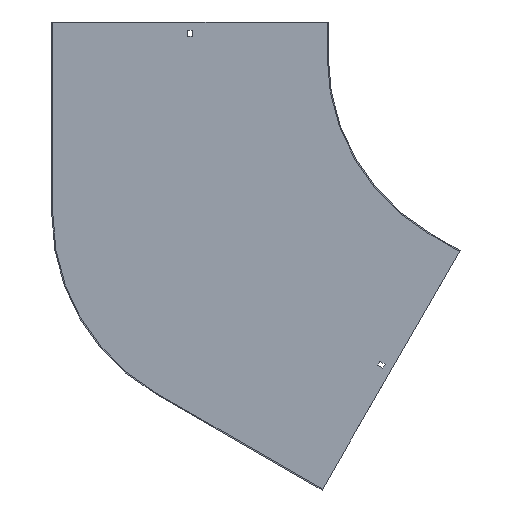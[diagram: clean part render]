
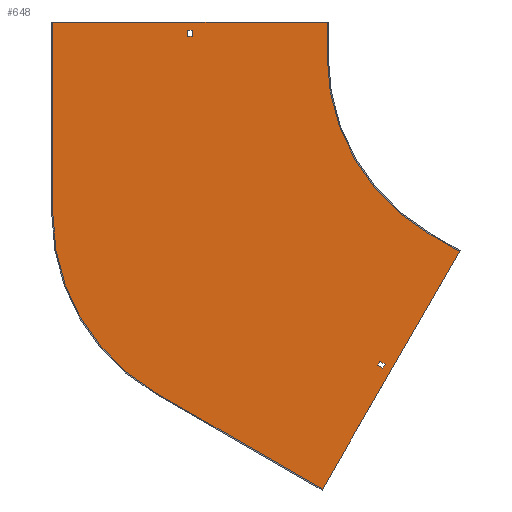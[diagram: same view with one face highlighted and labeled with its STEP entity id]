
A CAD part, front view. The second image highlights one B-rep face of the part: STEP entity #648.
In plain terms, the highlighted planar face has unit normal (0, -1, 0).
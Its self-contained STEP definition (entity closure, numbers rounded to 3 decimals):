
#7 = EDGE_CURVE ( 'NONE', #400, #80, #163, .T. ) ;
#12 = DIRECTION ( 'NONE',  ( 0., 0., 1. ) ) ;
#16 = CARTESIAN_POINT ( 'NONE',  ( -503.25, -1.5, 0. ) ) ;
#19 = CARTESIAN_POINT ( 'NONE',  ( -701.5, -1.5, 50. ) ) ;
#24 = ORIENTED_EDGE ( 'NONE', *, *, #45, .F. ) ;
#25 = DIRECTION ( 'NONE',  ( 0., 0., -1. ) ) ;
#26 = CARTESIAN_POINT ( 'NONE',  ( -550., -1.5, -490.748 ) ) ;
#29 = DIRECTION ( 'NONE',  ( -0.866, 0., 0.5 ) ) ;
#39 = CARTESIAN_POINT ( 'NONE',  ( -503.25, -1.5, 29. ) ) ;
#40 = VECTOR ( 'NONE', #103, 1000. ) ;
#42 = LINE ( 'NONE', #510, #478 ) ;
#45 = EDGE_CURVE ( 'NONE', #202, #557, #495, .T. ) ;
#51 = LINE ( 'NONE', #844, #523 ) ;
#56 = EDGE_CURVE ( 'NONE', #482, #227, #51, .T. ) ;
#58 = VECTOR ( 'NONE', #375, 1000. ) ;
#65 = CARTESIAN_POINT ( 'NONE',  ( 32.909, -1.5, -19. ) ) ;
#80 = VERTEX_POINT ( 'NONE', #39 ) ;
#82 = DIRECTION ( 'NONE',  ( 0.866, 0., -0.5 ) ) ;
#84 = AXIS2_PLACEMENT_3D ( 'NONE', #192, #768, #451 ) ;
#97 = ORIENTED_EDGE ( 'NONE', *, *, #795, .F. ) ;
#100 = DIRECTION ( 'NONE',  ( 0.866, 0., -0.5 ) ) ;
#102 = FACE_BOUND ( 'NONE', #502, .T. ) ;
#103 = DIRECTION ( 'NONE',  ( 0., 0., 1. ) ) ;
#104 = VECTOR ( 'NONE', #25, 1000. ) ;
#106 = DIRECTION ( 'NONE',  ( 0., -1., 0. ) ) ;
#126 = CARTESIAN_POINT ( 'NONE',  ( -300., -1.5, 50. ) ) ;
#128 = ORIENTED_EDGE ( 'NONE', *, *, #720, .T. ) ;
#146 = LINE ( 'NONE', #16, #716 ) ;
#152 = CARTESIAN_POINT ( 'NONE',  ( 0., -1.5, 0. ) ) ;
#162 = EDGE_CURVE ( 'NONE', #629, #520, #398, .T. ) ;
#163 = LINE ( 'NONE', #612, #285 ) ;
#171 = EDGE_CURVE ( 'NONE', #80, #443, #146, .T. ) ;
#179 = LINE ( 'NONE', #696, #104 ) ;
#180 = CARTESIAN_POINT ( 'NONE',  ( -306.699, -1.5, -631.218 ) ) ;
#192 = CARTESIAN_POINT ( 'NONE',  ( -400., -1.5, -230.94 ) ) ;
#202 = VERTEX_POINT ( 'NONE', #223 ) ;
#222 = ORIENTED_EDGE ( 'NONE', *, *, #171, .T. ) ;
#223 = CARTESIAN_POINT ( 'NONE',  ( -700., -1.5, -230.94 ) ) ;
#224 = DIRECTION ( 'NONE',  ( 0., 0., -1. ) ) ;
#227 = VERTEX_POINT ( 'NONE', #26 ) ;
#231 = ORIENTED_EDGE ( 'NONE', *, *, #7, .T. ) ;
#245 = DIRECTION ( 'NONE',  ( 0., 0., -1. ) ) ;
#246 = CARTESIAN_POINT ( 'NONE',  ( -503.25, -1.5, 38. ) ) ;
#255 = EDGE_CURVE ( 'NONE', #681, #629, #624, .T. ) ;
#256 = CARTESIAN_POINT ( 'NONE',  ( -226.51, -1.5, -450.327 ) ) ;
#261 = EDGE_LOOP ( 'NONE', ( #128, #296, #231, #222 ) ) ;
#283 = CARTESIAN_POINT ( 'NONE',  ( -251.625, -1.5, -435.827 ) ) ;
#285 = VECTOR ( 'NONE', #287, 1000. ) ;
#287 = DIRECTION ( 'NONE',  ( -1., 0., 0. ) ) ;
#295 = CARTESIAN_POINT ( 'NONE',  ( -215.466, -1.5, -449.198 ) ) ;
#296 = ORIENTED_EDGE ( 'NONE', *, *, #855, .T. ) ;
#314 = VERTEX_POINT ( 'NONE', #256 ) ;
#315 = CIRCLE ( 'NONE', #717, 300. ) ;
#328 = CARTESIAN_POINT ( 'NONE',  ( -248.375, -1.5, -430.198 ) ) ;
#338 = LINE ( 'NONE', #283, #421 ) ;
#340 = VERTEX_POINT ( 'NONE', #126 ) ;
#345 = ORIENTED_EDGE ( 'NONE', *, *, #255, .F. ) ;
#356 = CARTESIAN_POINT ( 'NONE',  ( 0., -1.5, 0. ) ) ;
#375 = DIRECTION ( 'NONE',  ( -0.5, 0., -0.866 ) ) ;
#380 = LINE ( 'NONE', #849, #58 ) ;
#389 = CARTESIAN_POINT ( 'NONE',  ( -496.75, -1.5, 29. ) ) ;
#398 = LINE ( 'NONE', #328, #491 ) ;
#400 = VERTEX_POINT ( 'NONE', #389 ) ;
#405 = LINE ( 'NONE', #19, #811 ) ;
#420 = AXIS2_PLACEMENT_3D ( 'NONE', #356, #106, #224 ) ;
#421 = VECTOR ( 'NONE', #82, 1000. ) ;
#442 = CARTESIAN_POINT ( 'NONE',  ( -300., -1.5, 0. ) ) ;
#443 = VERTEX_POINT ( 'NONE', #246 ) ;
#451 = DIRECTION ( 'NONE',  ( 0., 0., -1. ) ) ;
#473 = ORIENTED_EDGE ( 'NONE', *, *, #56, .F. ) ;
#477 = VECTOR ( 'NONE', #848, 1000. ) ;
#478 = VECTOR ( 'NONE', #245, 1000. ) ;
#480 = FACE_OUTER_BOUND ( 'NONE', #714, .T. ) ;
#481 = ORIENTED_EDGE ( 'NONE', *, *, #828, .F. ) ;
#482 = VERTEX_POINT ( 'NONE', #180 ) ;
#483 = DIRECTION ( 'NONE',  ( 1., 0., 0. ) ) ;
#490 = VERTEX_POINT ( 'NONE', #516 ) ;
#491 = VECTOR ( 'NONE', #667, 1000. ) ;
#495 = LINE ( 'NONE', #637, #40 ) ;
#499 = EDGE_CURVE ( 'NONE', #817, #482, #641, .T. ) ;
#502 = EDGE_LOOP ( 'NONE', ( #596, #345, #663, #721 ) ) ;
#510 = CARTESIAN_POINT ( 'NONE',  ( -300., -1.5, 50. ) ) ;
#516 = CARTESIAN_POINT ( 'NONE',  ( -496.75, -1.5, 38. ) ) ;
#517 = DIRECTION ( 'NONE',  ( 1., 0., 0. ) ) ;
#520 = VERTEX_POINT ( 'NONE', #839 ) ;
#523 = VECTOR ( 'NONE', #29, 1000. ) ;
#532 = EDGE_CURVE ( 'NONE', #766, #621, #315, .T. ) ;
#541 = CIRCLE ( 'NONE', #84, 300. ) ;
#551 = CARTESIAN_POINT ( 'NONE',  ( -106.699, -1.5, -284.808 ) ) ;
#557 = VERTEX_POINT ( 'NONE', #801 ) ;
#559 = ORIENTED_EDGE ( 'NONE', *, *, #809, .F. ) ;
#561 = ORIENTED_EDGE ( 'NONE', *, *, #499, .F. ) ;
#596 = ORIENTED_EDGE ( 'NONE', *, *, #162, .F. ) ;
#612 = CARTESIAN_POINT ( 'NONE',  ( 0., -1.5, 29. ) ) ;
#614 = VECTOR ( 'NONE', #665, 1000. ) ;
#621 = VERTEX_POINT ( 'NONE', #689 ) ;
#623 = PLANE ( 'NONE',  #420 ) ;
#624 = LINE ( 'NONE', #65, #614 ) ;
#629 = VERTEX_POINT ( 'NONE', #295 ) ;
#637 = CARTESIAN_POINT ( 'NONE',  ( -700., -1.5, -230.94 ) ) ;
#641 = LINE ( 'NONE', #697, #477 ) ;
#642 = CARTESIAN_POINT ( 'NONE',  ( 0., -1.5, 38. ) ) ;
#646 = LINE ( 'NONE', #642, #776 ) ;
#648 = ADVANCED_FACE ( 'NONE', ( #102, #480, #760 ), #623, .T. ) ;
#663 = ORIENTED_EDGE ( 'NONE', *, *, #818, .F. ) ;
#665 = DIRECTION ( 'NONE',  ( 0.5, 0., 0.866 ) ) ;
#667 = DIRECTION ( 'NONE',  ( -0.866, 0., 0.5 ) ) ;
#669 = EDGE_CURVE ( 'NONE', #520, #314, #380, .T. ) ;
#681 = VERTEX_POINT ( 'NONE', #700 ) ;
#688 = EDGE_CURVE ( 'NONE', #227, #202, #541, .T. ) ;
#689 = CARTESIAN_POINT ( 'NONE',  ( -150., -1.5, -259.808 ) ) ;
#696 = CARTESIAN_POINT ( 'NONE',  ( -496.75, -1.5, 0. ) ) ;
#697 = CARTESIAN_POINT ( 'NONE',  ( -105.949, -1.5, -283.509 ) ) ;
#700 = CARTESIAN_POINT ( 'NONE',  ( -218.716, -1.5, -454.827 ) ) ;
#714 = EDGE_LOOP ( 'NONE', ( #559, #24, #859, #473, #561, #97, #755, #481 ) ) ;
#716 = VECTOR ( 'NONE', #12, 1000. ) ;
#717 = AXIS2_PLACEMENT_3D ( 'NONE', #152, #794, #724 ) ;
#720 = EDGE_CURVE ( 'NONE', #443, #490, #646, .T. ) ;
#721 = ORIENTED_EDGE ( 'NONE', *, *, #669, .F. ) ;
#724 = DIRECTION ( 'NONE',  ( 0., 0., -1. ) ) ;
#754 = CARTESIAN_POINT ( 'NONE',  ( -150., -1.5, -259.808 ) ) ;
#755 = ORIENTED_EDGE ( 'NONE', *, *, #532, .F. ) ;
#760 = FACE_BOUND ( 'NONE', #261, .T. ) ;
#766 = VERTEX_POINT ( 'NONE', #442 ) ;
#768 = DIRECTION ( 'NONE',  ( 0., 1., 0. ) ) ;
#776 = VECTOR ( 'NONE', #517, 1000. ) ;
#794 = DIRECTION ( 'NONE',  ( 0., -1., 0. ) ) ;
#795 = EDGE_CURVE ( 'NONE', #621, #817, #835, .T. ) ;
#801 = CARTESIAN_POINT ( 'NONE',  ( -700., -1.5, 50. ) ) ;
#809 = EDGE_CURVE ( 'NONE', #557, #340, #405, .T. ) ;
#811 = VECTOR ( 'NONE', #483, 1000. ) ;
#817 = VERTEX_POINT ( 'NONE', #551 ) ;
#818 = EDGE_CURVE ( 'NONE', #314, #681, #338, .T. ) ;
#828 = EDGE_CURVE ( 'NONE', #340, #766, #42, .T. ) ;
#835 = LINE ( 'NONE', #754, #838 ) ;
#838 = VECTOR ( 'NONE', #100, 1000. ) ;
#839 = CARTESIAN_POINT ( 'NONE',  ( -223.26, -1.5, -444.698 ) ) ;
#844 = CARTESIAN_POINT ( 'NONE',  ( -306.699, -1.5, -631.218 ) ) ;
#848 = DIRECTION ( 'NONE',  ( -0.5, 0., -0.866 ) ) ;
#849 = CARTESIAN_POINT ( 'NONE',  ( 25.115, -1.5, -14.5 ) ) ;
#855 = EDGE_CURVE ( 'NONE', #490, #400, #179, .T. ) ;
#859 = ORIENTED_EDGE ( 'NONE', *, *, #688, .F. ) ;
